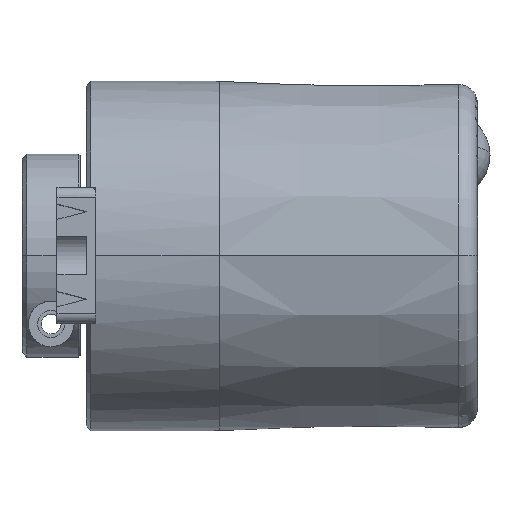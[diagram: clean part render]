
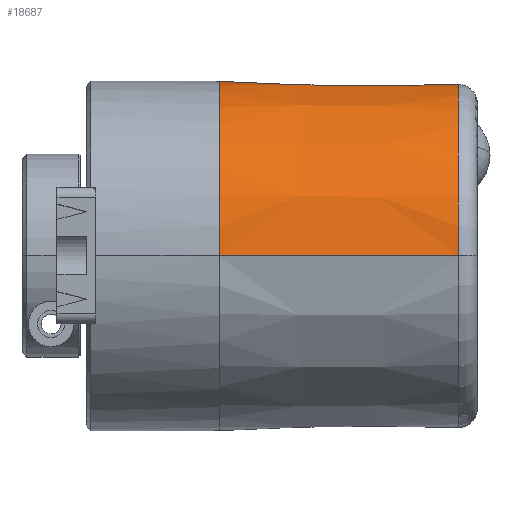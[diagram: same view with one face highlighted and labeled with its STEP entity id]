
A CAD part, top view. The second image highlights one B-rep face of the part: STEP entity #18687.
In plain terms, the highlighted conical face has half-angle 0.75 degrees and reference radius 18 mm.
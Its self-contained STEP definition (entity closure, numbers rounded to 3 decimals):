
#35 = CARTESIAN_POINT ( 'NONE',  ( 15.85, 0., -17.972 ) ) ;
#275 = B_SPLINE_CURVE_WITH_KNOTS ( 'NONE', 3,
 ( #277, #318, #317, #316, #315, #314, #313, #312, #311, #310 ),
 .UNSPECIFIED., .F., .F.,
 ( 4, 2, 2, 2, 4 ),
 ( 0.002, 0.002, 0.002, 0.003, 0.003 ),
 .UNSPECIFIED. ) ;
#277 = CARTESIAN_POINT ( 'NONE',  ( 15.85, 0., -17.972 ) ) ;
#310 = CARTESIAN_POINT ( 'NONE',  ( 14.892, 1.046, -17.954 ) ) ;
#311 = CARTESIAN_POINT ( 'NONE',  ( 15.022, 1.035, -17.953 ) ) ;
#312 = CARTESIAN_POINT ( 'NONE',  ( 15.149, 0.999, -17.953 ) ) ;
#313 = CARTESIAN_POINT ( 'NONE',  ( 15.381, 0.884, -17.956 ) ) ;
#314 = CARTESIAN_POINT ( 'NONE',  ( 15.487, 0.804, -17.959 ) ) ;
#315 = CARTESIAN_POINT ( 'NONE',  ( 15.662, 0.614, -17.964 ) ) ;
#316 = CARTESIAN_POINT ( 'NONE',  ( 15.732, 0.501, -17.967 ) ) ;
#317 = CARTESIAN_POINT ( 'NONE',  ( 15.825, 0.26, -17.971 ) ) ;
#318 = CARTESIAN_POINT ( 'NONE',  ( 15.85, 0.129, -17.972 ) ) ;
#1039 = CARTESIAN_POINT ( 'NONE',  ( 38.326, 0., 17.678 ) ) ;
#2284 = CARTESIAN_POINT ( 'NONE',  ( 14.892, 1.046, -17.954 ) ) ;
#2332 = CARTESIAN_POINT ( 'NONE',  ( 38.3, 9.486, -14.917 ) ) ;
#2333 = CARTESIAN_POINT ( 'NONE',  ( 34.3, 9.457, -14.998 ) ) ;
#2334 = CARTESIAN_POINT ( 'NONE',  ( 30.3, 9.427, -15.078 ) ) ;
#2335 = CARTESIAN_POINT ( 'NONE',  ( 26.3, 9.398, -15.158 ) ) ;
#2337 = B_SPLINE_CURVE_WITH_KNOTS ( 'NONE', 3,
 ( #2335, #2334, #2333, #2332 ),
 .UNSPECIFIED., .F., .F.,
 ( 4, 4 ),
 ( 0.002, 0.014 ),
 .UNSPECIFIED. ) ;
#2362 = FACE_OUTER_BOUND ( 'NONE', #18679, .T. ) ;
#2364 = CARTESIAN_POINT ( 'NONE',  ( 13.7, 0., 18. ) ) ;
#2365 = DIRECTION ( 'NONE',  ( 0., 0., 1. ) ) ;
#2366 = DIRECTION ( 'NONE',  ( 1., 0., 0. ) ) ;
#2367 = CARTESIAN_POINT ( 'NONE',  ( 24.3, 0., 0. ) ) ;
#2378 = AXIS2_PLACEMENT_3D ( 'NONE', #2367, #2366, #2365 ) ;
#2379 = CIRCLE ( 'NONE', #2378, 17.861 ) ;
#2394 = DIRECTION ( 'NONE',  ( 0., 0., 1. ) ) ;
#2395 = DIRECTION ( 'NONE',  ( -1., 0., 0. ) ) ;
#2396 = AXIS2_PLACEMENT_3D ( 'NONE', #2399, #2395, #2394 ) ;
#2397 = CONICAL_SURFACE ( 'NONE', #2396, 18., 0.013 ) ;
#2398 = CARTESIAN_POINT ( 'NONE',  ( 13.7, 1.65, -17.924 ) ) ;
#2399 = CARTESIAN_POINT ( 'NONE',  ( 13.7, 0., 0. ) ) ;
#2494 = DIRECTION ( 'NONE',  ( -1., 0., 0.013 ) ) ;
#2495 = VECTOR ( 'NONE', #2494, 1000. ) ;
#2496 = CARTESIAN_POINT ( 'NONE',  ( 13.7, 0., 18. ) ) ;
#2497 = LINE ( 'NONE', #2496, #2495 ) ;
#2498 = DIRECTION ( 'NONE',  ( 0., 0., -1. ) ) ;
#2499 = DIRECTION ( 'NONE',  ( 1., 0., 0. ) ) ;
#2500 = CARTESIAN_POINT ( 'NONE',  ( 13.7, 0., 0. ) ) ;
#2501 = AXIS2_PLACEMENT_3D ( 'NONE', #2500, #2499, #2498 ) ;
#2502 = CIRCLE ( 'NONE', #2501, 18. ) ;
#2503 = DIRECTION ( 'NONE',  ( -1., 0., -0.013 ) ) ;
#2504 = VECTOR ( 'NONE', #2503, 1000. ) ;
#2505 = CARTESIAN_POINT ( 'NONE',  ( 13.7, 0., -18. ) ) ;
#2506 = LINE ( 'NONE', #2505, #2504 ) ;
#2537 = CARTESIAN_POINT ( 'NONE',  ( 13.7, 1.65, -17.924 ) ) ;
#2538 = CARTESIAN_POINT ( 'NONE',  ( 13.882, 1.468, -17.939 ) ) ;
#2539 = CARTESIAN_POINT ( 'NONE',  ( 14.065, 1.285, -17.95 ) ) ;
#2540 = CARTESIAN_POINT ( 'NONE',  ( 14.248, 1.102, -17.959 ) ) ;
#2541 =( BOUNDED_CURVE ( )  B_SPLINE_CURVE ( 3, ( #2540, #2539, #2538, #2537 ),
 .UNSPECIFIED., .F., .T. ) 
 B_SPLINE_CURVE_WITH_KNOTS ( ( 4, 4 ),
 ( 4.761, 4.791 ),
 .UNSPECIFIED. ) 
 CURVE ( )  GEOMETRIC_REPRESENTATION_ITEM ( )  RATIONAL_B_SPLINE_CURVE ( ( 1., 1., 1., 1. ) ) 
 REPRESENTATION_ITEM ( '' )  );
#2543 = CARTESIAN_POINT ( 'NONE',  ( 38.3, 9.486, -14.917 ) ) ;
#2544 = CARTESIAN_POINT ( 'NONE',  ( 38.309, 9.486, -14.917 ) ) ;
#2545 = CARTESIAN_POINT ( 'NONE',  ( 38.317, 9.486, -14.917 ) ) ;
#2546 = CARTESIAN_POINT ( 'NONE',  ( 38.326, 9.486, -14.917 ) ) ;
#2547 = CARTESIAN_POINT ( 'NONE',  ( 38.3, 9.486, -14.917 ) ) ;
#2548 = B_SPLINE_CURVE_WITH_KNOTS ( 'NONE', 3,
 ( #2546, #2545, #2544, #2543 ),
 .UNSPECIFIED., .F., .F.,
 ( 4, 4 ),
 ( 0.004, 0.004 ),
 .UNSPECIFIED. ) ;
#2549 = CARTESIAN_POINT ( 'NONE',  ( 26.3, 9.398, -15.158 ) ) ;
#2550 = DIRECTION ( 'NONE',  ( 0., 0., -1. ) ) ;
#2551 = DIRECTION ( 'NONE',  ( -1., 0., 0. ) ) ;
#2552 = AXIS2_PLACEMENT_3D ( 'NONE', #2566, #2551, #2550 ) ;
#2553 = CIRCLE ( 'NONE', #2552, 17.678 ) ;
#2564 = CARTESIAN_POINT ( 'NONE',  ( 38.326, 9.486, -14.917 ) ) ;
#2566 = CARTESIAN_POINT ( 'NONE',  ( 38.326, 0., 0. ) ) ;
#2568 = CARTESIAN_POINT ( 'NONE',  ( 14.892, 1.046, -17.954 ) ) ;
#2569 =( BOUNDED_CURVE ( )  B_SPLINE_CURVE ( 3, ( #2568, #2611, #2610, #2609 ),
 .UNSPECIFIED., .F., .T. ) 
 B_SPLINE_CURVE_WITH_KNOTS ( ( 4, 4 ),
 ( 4.62, 4.623 ),
 .UNSPECIFIED. ) 
 CURVE ( )  GEOMETRIC_REPRESENTATION_ITEM ( )  RATIONAL_B_SPLINE_CURVE ( ( 1., 1., 1., 1. ) ) 
 REPRESENTATION_ITEM ( '' )  );
#2586 = CARTESIAN_POINT ( 'NONE',  ( 24.3, 6.771, -16.528 ) ) ;
#2607 = CARTESIAN_POINT ( 'NONE',  ( 24.3, 0., -17.861 ) ) ;
#2608 = CARTESIAN_POINT ( 'NONE',  ( 14.248, 1.102, -17.959 ) ) ;
#2609 = CARTESIAN_POINT ( 'NONE',  ( 14.248, 1.102, -17.959 ) ) ;
#2610 = CARTESIAN_POINT ( 'NONE',  ( 14.462, 1.084, -17.957 ) ) ;
#2611 = CARTESIAN_POINT ( 'NONE',  ( 14.677, 1.065, -17.956 ) ) ;
#2741 = CARTESIAN_POINT ( 'NONE',  ( 25.15, 8.928, -15.458 ) ) ;
#2743 = CARTESIAN_POINT ( 'NONE',  ( 25.533, 9.191, -15.296 ) ) ;
#2744 = CARTESIAN_POINT ( 'NONE',  ( 25.672, 9.264, -15.25 ) ) ;
#2745 = CARTESIAN_POINT ( 'NONE',  ( 25.977, 9.368, -15.181 ) ) ;
#2746 = CARTESIAN_POINT ( 'NONE',  ( 26.135, 9.397, -15.161 ) ) ;
#2747 = CARTESIAN_POINT ( 'NONE',  ( 26.3, 9.398, -15.158 ) ) ;
#2748 = B_SPLINE_CURVE_WITH_KNOTS ( 'NONE', 3,
 ( #2747, #2746, #2745, #2744, #2743, #2741, #2804, #2803, #2802, #2801, #2800, #2799 ),
 .UNSPECIFIED., .F., .F.,
 ( 4, 2, 2, 2, 2, 4 ),
 ( 0., 0., 0.001, 0.002, 0.003, 0.004 ),
 .UNSPECIFIED. ) ;
#2799 = CARTESIAN_POINT ( 'NONE',  ( 24.3, 6.771, -16.528 ) ) ;
#2800 = CARTESIAN_POINT ( 'NONE',  ( 24.3, 7.074, -16.404 ) ) ;
#2801 = CARTESIAN_POINT ( 'NONE',  ( 24.343, 7.37, -16.272 ) ) ;
#2802 = CARTESIAN_POINT ( 'NONE',  ( 24.507, 7.94, -16. ) ) ;
#2803 = CARTESIAN_POINT ( 'NONE',  ( 24.625, 8.207, -15.862 ) ) ;
#2804 = CARTESIAN_POINT ( 'NONE',  ( 24.948, 8.703, -15.59 ) ) ;
#7270 = VERTEX_POINT ( 'NONE', #35 ) ;
#7355 = EDGE_CURVE ( 'NONE', #7270, #18653, #275, .T. ) ;
#18229 = VERTEX_POINT ( 'NONE', #1039 ) ;
#18653 = VERTEX_POINT ( 'NONE', #2284 ) ;
#18674 = EDGE_CURVE ( 'NONE', #18745, #18744, #2337, .T. ) ;
#18679 = EDGE_LOOP ( 'NONE', ( #18757, #18722, #18755, #18751, #18727, #18729, #18725, #18739, #18742, #18761, #18805 ) ) ;
#18684 = EDGE_CURVE ( 'NONE', #18758, #18750, #2379, .T. ) ;
#18685 = VERTEX_POINT ( 'NONE', #2364 ) ;
#18687 = ADVANCED_FACE ( 'NONE', ( #2362 ), #2397, .T. ) ;
#18688 = VERTEX_POINT ( 'NONE', #2398 ) ;
#18722 = ORIENTED_EDGE ( 'NONE', *, *, #18723, .T. ) ;
#18723 = EDGE_CURVE ( 'NONE', #18758, #7270, #2506, .T. ) ;
#18724 = EDGE_CURVE ( 'NONE', #18688, #18685, #2502, .T. ) ;
#18725 = ORIENTED_EDGE ( 'NONE', *, *, #18726, .F. ) ;
#18726 = EDGE_CURVE ( 'NONE', #18229, #18685, #2497, .T. ) ;
#18727 = ORIENTED_EDGE ( 'NONE', *, *, #18728, .T. ) ;
#18728 = EDGE_CURVE ( 'NONE', #18756, #18688, #2541, .T. ) ;
#18729 = ORIENTED_EDGE ( 'NONE', *, *, #18724, .T. ) ;
#18739 = ORIENTED_EDGE ( 'NONE', *, *, #18740, .T. ) ;
#18740 = EDGE_CURVE ( 'NONE', #18229, #18741, #2553, .T. ) ;
#18741 = VERTEX_POINT ( 'NONE', #2564 ) ;
#18742 = ORIENTED_EDGE ( 'NONE', *, *, #18743, .T. ) ;
#18743 = EDGE_CURVE ( 'NONE', #18741, #18744, #2548, .T. ) ;
#18744 = VERTEX_POINT ( 'NONE', #2547 ) ;
#18745 = VERTEX_POINT ( 'NONE', #2549 ) ;
#18750 = VERTEX_POINT ( 'NONE', #2586 ) ;
#18751 = ORIENTED_EDGE ( 'NONE', *, *, #18752, .T. ) ;
#18752 = EDGE_CURVE ( 'NONE', #18653, #18756, #2569, .T. ) ;
#18755 = ORIENTED_EDGE ( 'NONE', *, *, #7355, .T. ) ;
#18756 = VERTEX_POINT ( 'NONE', #2608 ) ;
#18757 = ORIENTED_EDGE ( 'NONE', *, *, #18684, .F. ) ;
#18758 = VERTEX_POINT ( 'NONE', #2607 ) ;
#18761 = ORIENTED_EDGE ( 'NONE', *, *, #18674, .F. ) ;
#18805 = ORIENTED_EDGE ( 'NONE', *, *, #18806, .T. ) ;
#18806 = EDGE_CURVE ( 'NONE', #18745, #18750, #2748, .T. ) ;
